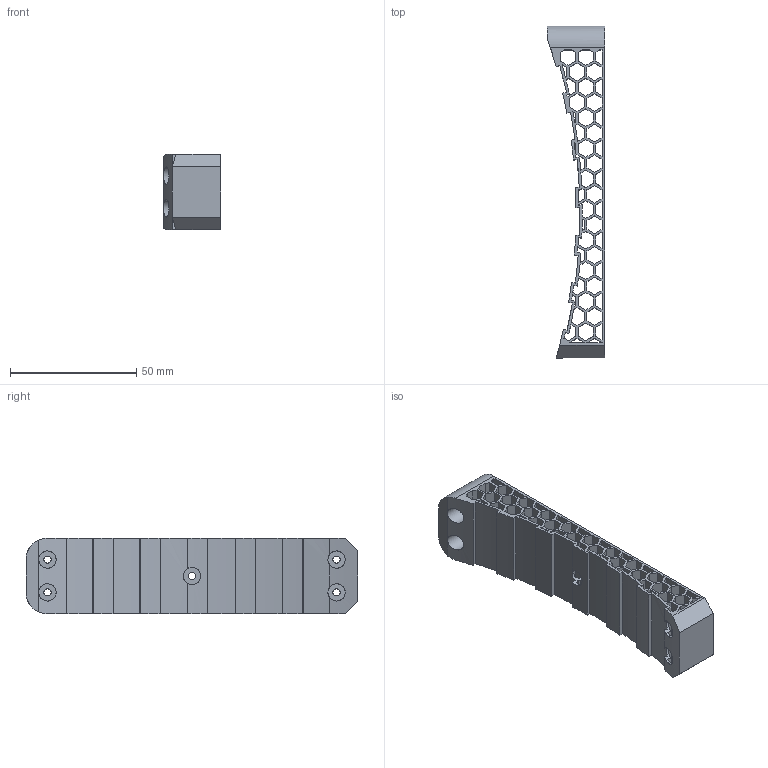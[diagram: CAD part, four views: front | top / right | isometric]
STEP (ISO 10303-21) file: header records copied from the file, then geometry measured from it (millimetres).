
FILE_DESCRIPTION(/* description */ (''),/* implementation_level */ '2;1');
FILE_NAME(/* name */ 'D:/Pew Pews/FGC-9_MkII_Stingray_Edition/Stingray Edition/.step files/3 - Buffer Tube and Stock/Stock/Butt Pad.step',/* time_stamp */ '2022-05-12T10:45:31-06:00',/* author */ (''),/* organization */ (''),/* preprocessor_version */ 'ST-DEVELOPER v18.1',/* originating_system */ 'Autodesk Translation Framework v10.10.0.1391',/* authorisation */ '');
FILE_SCHEMA (('AUTOMOTIVE_DESIGN { 1 0 10303 214 3 1 1 }'));
Length unit declared in the file: millimetre
Products named in the file (1): tpu pad
Bounding box: 22.63 x 131.59 x 30 mm (x, y, z)
Volume: 23936.8 mm3; surface area: 35956.4 mm2
Topology: 1 solids, 1 shells, 367 faces, 1181 edges, 788 vertices
Faces by surface type: plane 314, cylinder 53
Full cylindrical faces by diameter (mm): 2.85 x5, 6.85 x5
Entity records: 13538 total; most frequent: CARTESIAN_POINT 2640, ORIENTED_EDGE 2362, DIRECTION 2121, EDGE_CURVE 1181, LINE 921, VECTOR 921, VERTEX_POINT 788, AXIS2_PLACEMENT_3D 600
